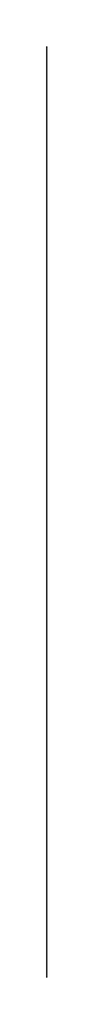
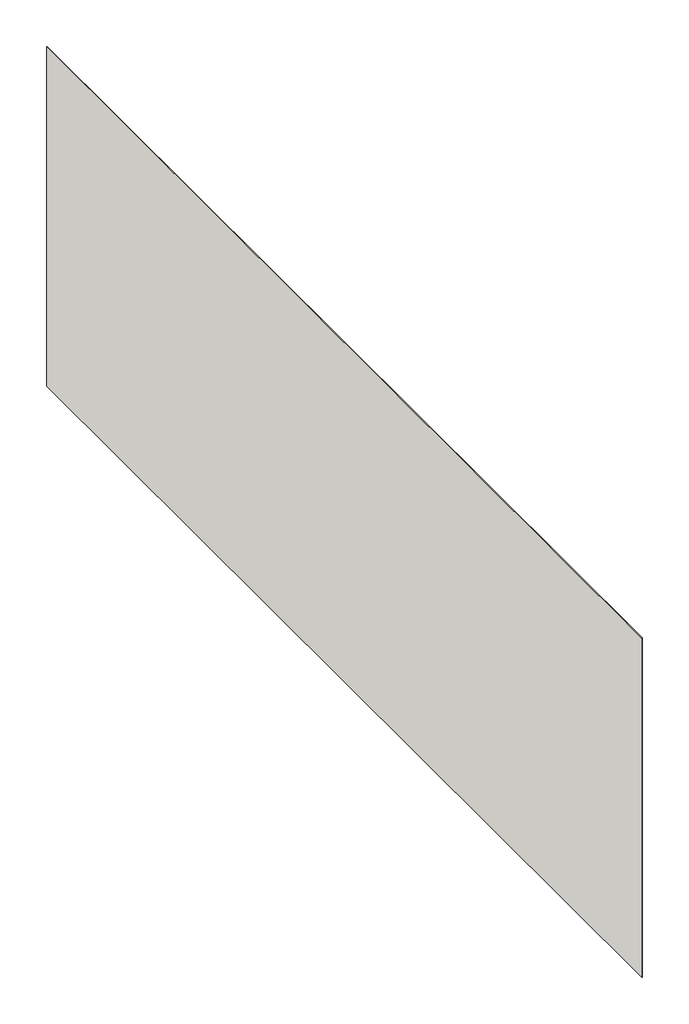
# One storey: 1 wall.
"""IFC4 building model written with IfcOpenShell, lengths in millimetres."""

from ifc_helpers import new_model, si_unit, frame, origin, place, context, project, spatial, polyline, outline, extrude, element, save

model = new_model("IFC4")

# Units and contexts
model_context = context("Model", 3, world=origin())
ifc_project = project(units=[si_unit("LENGTHUNIT", "METRE", prefix="MILLI")], contexts=[model_context])

# Site, building, storey
site = spatial("IfcSite", under=ifc_project)
building = spatial("IfcBuilding", under=site)
storey = spatial("IfcBuildingStorey", under=building, Name="- EXAGRES_Catalogo ESCALERAS", Elevation=34000.0)

# Wall
placement = place(None, origin())
element("IfcWall", 1, ObjectType="Muro básico:muro", at=placement, inside=storey, context=model_context, shape_type="SweptSolid", body=[
    extrude(outline(polyline([(-452.9029047, -15678.6587674), (-452.9029047, -13568.6587674), (-451.9029047, -13568.6587674), (-451.9029047, -15678.6587674), (-452.9029047, -15678.6587674)])), frame((0.0, 0.0, 33744.3153552), z_axis=(0.0, 0.0, 1.0), x_axis=(1.0, 0.0, 0.0)), (0.0, 0.0, 1.0), 734.4858442),
])

save(model, "model.ifc")
